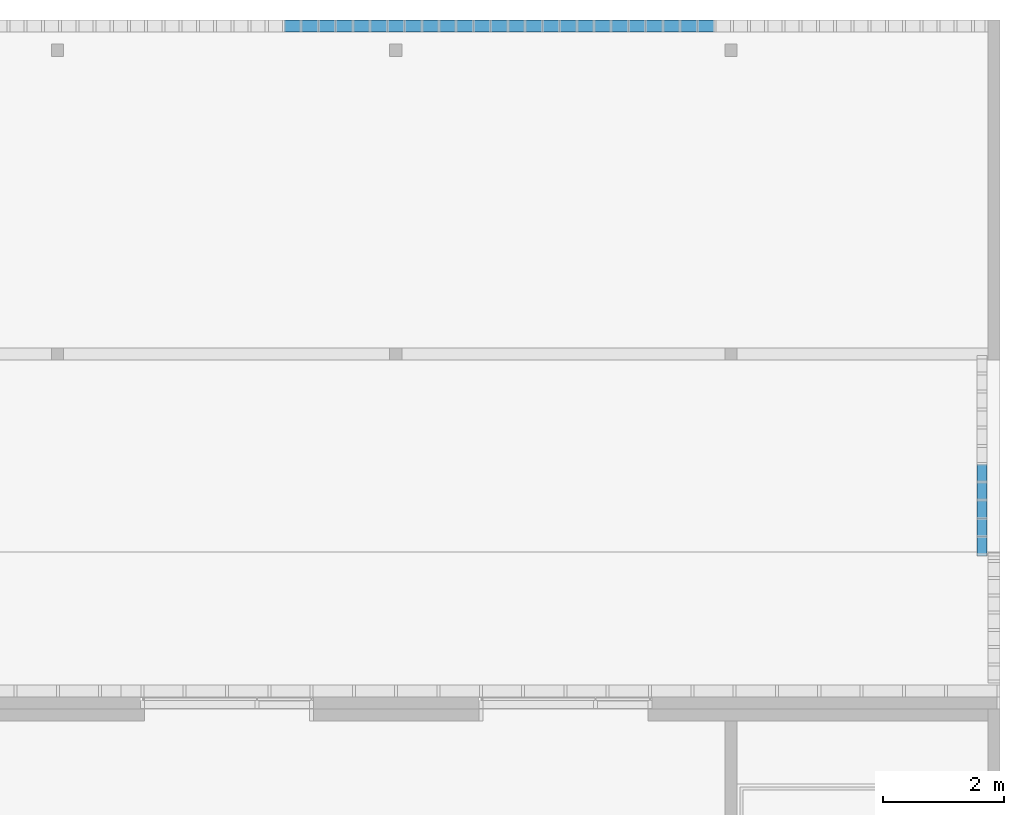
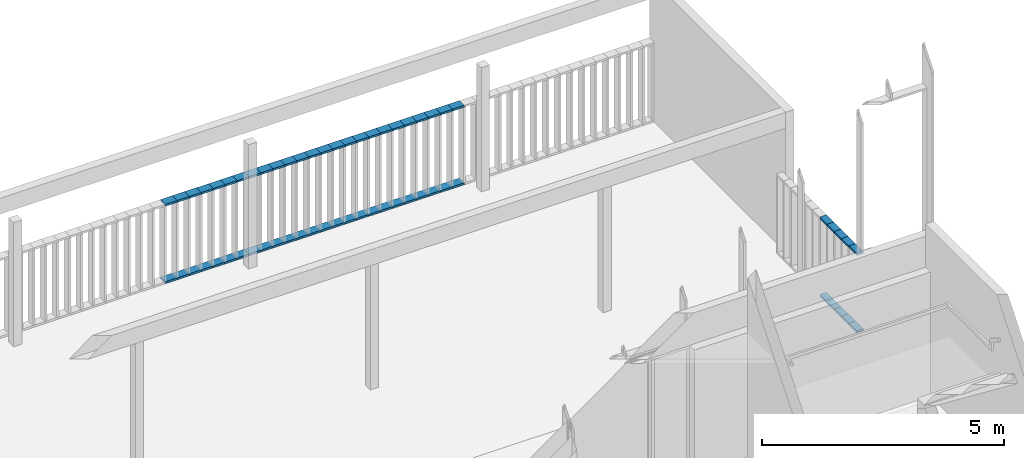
# One storey, part 56 of 240: 60 members, 2 elements without a shape of their own.
"""IFC2X3 building model written with IfcOpenShell, lengths in centimetres."""

import ifcopenshell
import ifcopenshell.guid

model = None  # the IFC model being written
_history = None  # IfcOwnerHistory: only IFC2X3 demands one
_inside = {}  # id of a spatial element -> (the spatial element, [elements in it])
_under = {}  # id of a project, library or spatial element -> (it, [spatial elements below it])
_declared = {}  # id of a project -> (the project, [libraries it declares])
_typed = {}  # id of a type object -> (the type object, [elements of that type])
_made_of = {}  # id of a material, layer set ... -> (it, [elements and type objects made of it])


def new_model(schema):
    """Start an empty IFC model of exactly this schema.

    Asked for "IFC4X3", IfcOpenShell would pick the latest addendum, in which some entities
    have other attributes; the version numbers below select the first issue.
    IFC2X3 requires an IfcOwnerHistory on every rooted entity: one is made here for all.
    """
    global model, _history
    if schema == "IFC4X3":
        model = ifcopenshell.file(schema_version=(4, 3, 0, 0))
    else:
        model = ifcopenshell.file(schema=schema)
    _inside.clear()
    _under.clear()
    _declared.clear()
    _typed.clear()
    _made_of.clear()
    _history = None
    if model.schema == "IFC2X3":
        org = make("IfcOrganization", Name="unknown")
        user = make(
            "IfcPersonAndOrganization",
            ThePerson=make("IfcPerson", FamilyName="unknown"),
            TheOrganization=org,
        )
        app = make(
            "IfcApplication",
            ApplicationDeveloper=org,
            Version="unknown",
            ApplicationFullName="unknown",
            ApplicationIdentifier="unknown",
        )
        _history = make(
            "IfcOwnerHistory",
            OwningUser=user,
            OwningApplication=app,
            ChangeAction="ADDED",
            CreationDate=0,
        )
    return model


def make(cls, **values):
    """One entity of the class cls with the attributes given. An attribute that is None is left unset."""
    return model.create_entity(
        cls, **{name: value for name, value in values.items() if value is not None}
    )


def entity(cls, *values):
    """Any entity or typed value of the class cls, its attributes in the order of the schema. None: left unset."""
    e = model.create_entity(cls)
    for i, value in enumerate(values):
        if value is not None:
            e[i] = value
    return e


def rooted(cls, **values):
    """An entity with a GlobalId (a new one), such as an element, a storey or a relation."""
    return make(cls, GlobalId=ifcopenshell.guid.new(), OwnerHistory=_history, **values)


def si_unit(unit_type, name, prefix=None):
    """IfcSIUnit, for example si_unit("LENGTHUNIT", "METRE", prefix="MILLI")."""
    return make("IfcSIUnit", UnitType=unit_type, Prefix=prefix, Name=name)


def converted_unit(unit_type, name, factor, base, dimensions=None, offset=None):
    """IfcConversionBasedUnit, such as the inch: factor (a typed value) times the base unit."""
    return make(
        "IfcConversionBasedUnit"
        if offset is None
        else "IfcConversionBasedUnitWithOffset",
        ConversionOffset=offset,
        Dimensions=None
        if dimensions is None
        else entity("IfcDimensionalExponents", *dimensions),
        UnitType=unit_type,
        Name=name,
        ConversionFactor=make(
            "IfcMeasureWithUnit", ValueComponent=factor, UnitComponent=base
        ),
    )


def derived_unit(unit_type, elements):
    """IfcDerivedUnit: a product of units, each with its exponent."""
    return make(
        "IfcDerivedUnit",
        Elements=[
            make("IfcDerivedUnitElement", Unit=unit, Exponent=power)
            for unit, power in elements
        ],
        UnitType=unit_type,
    )


def assignment(units):
    """IfcUnitAssignment: the units of a project."""
    return None if units is None else make("IfcUnitAssignment", Units=units)


def point(xyz):
    """IfcCartesianPoint."""
    return None if xyz is None else make("IfcCartesianPoint", Coordinates=xyz)


def direction(xyz):
    """IfcDirection."""
    return None if xyz is None else make("IfcDirection", DirectionRatios=xyz)


def frame(location, z_axis=None, x_axis=None):
    """IfcAxis2Placement3D, a coordinate frame: its origin and axes. An axis left out is left unset."""
    return make(
        "IfcAxis2Placement3D",
        Location=point(location),
        Axis=direction(z_axis),
        RefDirection=direction(x_axis),
    )


def frame_2d(location, x_axis=None):
    """IfcAxis2Placement2D, a coordinate frame in the plane: its origin and x axis."""
    return make(
        "IfcAxis2Placement2D", Location=point(location), RefDirection=direction(x_axis)
    )


def origin():
    """The frame at (0, 0, 0) with its axes left unset."""
    return frame((0.0, 0.0, 0.0))


def origin_2d_with_axis():
    """The frame at (0, 0) in the plane with the x axis (1, 0) written out."""
    return frame_2d((0.0, 0.0), x_axis=(1.0, 0.0))


def place(relative_to, where):
    """IfcLocalPlacement: puts the frame where relative to a parent placement (None: the world)."""
    return make(
        "IfcLocalPlacement", PlacementRelTo=relative_to, RelativePlacement=where
    )


def context(
    kind, dimensions, precision=None, world=None, true_north=None, identifier=None
):
    """IfcGeometricRepresentationContext, for example the 3D "Model" context."""
    return make(
        "IfcGeometricRepresentationContext",
        ContextIdentifier=identifier,
        ContextType=kind,
        CoordinateSpaceDimension=dimensions,
        Precision=precision,
        WorldCoordinateSystem=world,
        TrueNorth=true_north,
    )


def subcontext(parent, identifier, kind, view, scale=None):
    """IfcGeometricRepresentationSubContext, for example "Body" below "Model"."""
    return make(
        "IfcGeometricRepresentationSubContext",
        ContextIdentifier=identifier,
        ContextType=kind,
        ParentContext=parent,
        TargetScale=scale,
        TargetView=view,
    )


def project(units=None, contexts=None):
    """IfcProject with its units and contexts."""
    return rooted(
        "IfcProject",
        Name="project",
        RepresentationContexts=contexts,
        UnitsInContext=assignment(units),
    )


def spatial(cls, under=None, at=None, **own):
    """A site, building, storey or space (cls), placed at a placement, below another one or the project."""
    s = rooted(cls, ObjectPlacement=at, **own)
    if under is not None:
        _under.setdefault(under.id(), (under, []))[1].append(s)
    return s


def profile(cls, at=None, kind="AREA", **sizes):
    """A parametric profile (cls). Its sizes go by their IFC names, for example OverallWidth=200.0."""
    return make(cls, ProfileType=kind, Position=at, **sizes)


def rectangle(**sizes):
    """IfcRectangleProfileDef."""
    return profile("IfcRectangleProfileDef", **sizes)


def extrude(swept, where, along, depth):
    """IfcExtrudedAreaSolid: the profile swept, set in the frame where, extruded along a direction by depth."""
    return make(
        "IfcExtrudedAreaSolid",
        SweptArea=swept,
        Position=where,
        ExtrudedDirection=direction(along),
        Depth=depth,
    )


def shape(context_of_items, identifier, shape_type, items):
    """IfcShapeRepresentation: the items that make up one representation, for example the "Body"."""
    return make(
        "IfcShapeRepresentation",
        ContextOfItems=context_of_items,
        RepresentationIdentifier=identifier,
        RepresentationType=shape_type,
        Items=items,
    )


def source(mapping_origin, context_of_items, identifier, shape_type, items):
    """IfcRepresentationMap: a shape defined once, which mapped items show again and again."""
    return make(
        "IfcRepresentationMap",
        MappingOrigin=mapping_origin,
        MappedRepresentation=shape(context_of_items, identifier, shape_type, items),
    )


def transform(
    local_origin,
    x_axis=None,
    y_axis=None,
    z_axis=None,
    scale=None,
    scale2=None,
    scale3=None,
    uniform=True,
):
    """IfcCartesianTransformationOperator3D, or its non-uniform kind. x_axis, y_axis, z_axis: its Axis1, 2, 3."""
    if uniform:
        return make(
            "IfcCartesianTransformationOperator3D",
            Axis1=direction(x_axis),
            Axis2=direction(y_axis),
            LocalOrigin=point(local_origin),
            Scale=scale,
            Axis3=direction(z_axis),
        )
    return make(
        "IfcCartesianTransformationOperator3DnonUniform",
        Axis1=direction(x_axis),
        Axis2=direction(y_axis),
        LocalOrigin=point(local_origin),
        Scale=scale,
        Axis3=direction(z_axis),
        Scale2=scale2,
        Scale3=scale3,
    )


def mapped(mapping_source, mapping_target):
    """IfcMappedItem: shows the shape of a source again, moved by a transform."""
    return make(
        "IfcMappedItem", MappingSource=mapping_source, MappingTarget=mapping_target
    )


def material(Name=None, Category=None):
    """IfcMaterial."""
    return make("IfcMaterial", Name=Name, Category=Category)


def made_of(thing, what):
    """Note that an element or type object is made of a material, layer set ...; save() writes the relation."""
    if what is not None:
        _made_of.setdefault(what.id(), (what, []))[1].append(thing)
    return thing


def type_object(cls, material=None, **own):
    """A type object (cls), such as IfcWallType, which elements share."""
    return made_of(rooted(cls, **own), material)


def type_shapes(of_type, sources):
    """Give a type object the sources (RepresentationMaps) that its elements show as mapped items."""
    of_type.RepresentationMaps = sources


def element(
    cls,
    number,
    at=None,
    inside=None,
    cuts=None,
    type_object=None,
    material=None,
    context=None,
    identifier="Body",
    shape_type=None,
    held_by="IfcProductDefinitionShape",
    body=None,
    shapes=None,
    **own,
):
    """One element of the class cls, such as IfcWall. Its Tag is "e" and its number.

    at: its placement. inside: the storey or other place that contains it. cuts: it is an
    opening in that element (IfcRelVoidsElement). A single representation is given by context,
    identifier, shape_type and body (its items); several are given by shapes. held_by: the class
    of the entity that holds the representations. save() writes the other relations.
    """
    e = rooted(cls, Tag="e%d" % number, ObjectPlacement=at, **own)
    if body is not None:
        shapes = [shape(context, identifier, shape_type, body)]
    if shapes is not None:
        e.Representation = make(held_by, Representations=shapes)
    if inside is not None:
        _inside.setdefault(inside.id(), (inside, []))[1].append(e)
    if cuts is not None:
        rooted(
            "IfcRelVoidsElement", RelatingBuildingElement=cuts, RelatedOpeningElement=e
        )
    if type_object is not None:
        _typed.setdefault(type_object.id(), (type_object, []))[1].append(e)
    return made_of(e, material)


def aggregate(whole, parts):
    """IfcRelAggregates: a whole, such as a stair, and the parts it consists of."""
    return rooted("IfcRelAggregates", RelatingObject=whole, RelatedObjects=parts)


def save(model, path):
    """Write the relations noted so far, then the file.

    IfcRelAggregates (storeys below a building ...), IfcRelContainedInSpatialStructure (elements
    in a storey), IfcRelDefinesByType, IfcRelAssociatesMaterial and IfcRelDeclares: one each for
    every whole, place, type object, material and project.
    """
    for whole, parts in _under.values():
        aggregate(whole, parts)
    for where, things in _inside.values():
        rooted(
            "IfcRelContainedInSpatialStructure",
            RelatedElements=things,
            RelatingStructure=where,
        )
    for kind, things in _typed.values():
        rooted("IfcRelDefinesByType", RelatedObjects=things, RelatingType=kind)
    for what, things in _made_of.values():
        rooted("IfcRelAssociatesMaterial", RelatedObjects=things, RelatingMaterial=what)
    for by, libraries in _declared.values():
        rooted("IfcRelDeclares", RelatingContext=by, RelatedDefinitions=libraries)
    model.write(path)


model = new_model("IFC2X3")

# Units and contexts
model_context = context("Model", 3, precision=0.001, world=origin(), true_north=direction((6.12303176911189e-17, 1.0)))
body_context = subcontext(model_context, "Body", "Model", "MODEL_VIEW")
ifc_project = project(units=[si_unit("LENGTHUNIT", "METRE", prefix="CENTI"), si_unit("AREAUNIT", "SQUARE_METRE"), si_unit("VOLUMEUNIT", "CUBIC_METRE"), converted_unit("PLANEANGLEUNIT", "DEGREE", entity("IfcRatioMeasure", 0.0174532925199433), si_unit("PLANEANGLEUNIT", "RADIAN"), dimensions=[0, 0, 0, 0, 0, 0, 0]), si_unit("MASSUNIT", "GRAM", prefix="KILO"), derived_unit("MASSDENSITYUNIT", [(si_unit("MASSUNIT", "GRAM", prefix="KILO"), 1), (si_unit("LENGTHUNIT", "METRE"), -3)]), si_unit("TIMEUNIT", "SECOND"), si_unit("FREQUENCYUNIT", "HERTZ"), si_unit("THERMODYNAMICTEMPERATUREUNIT", "DEGREE_CELSIUS"), derived_unit("THERMALTRANSMITTANCEUNIT", [(si_unit("MASSUNIT", "GRAM", prefix="KILO"), 1), (si_unit("THERMODYNAMICTEMPERATUREUNIT", "KELVIN"), -1), (si_unit("TIMEUNIT", "SECOND"), -3)]), derived_unit("VOLUMETRICFLOWRATEUNIT", [(si_unit("LENGTHUNIT", "METRE"), 3), (si_unit("TIMEUNIT", "SECOND"), -1)]), si_unit("ELECTRICCURRENTUNIT", "AMPERE"), si_unit("ELECTRICVOLTAGEUNIT", "VOLT"), si_unit("POWERUNIT", "WATT"), si_unit("FORCEUNIT", "NEWTON", prefix="KILO"), si_unit("ILLUMINANCEUNIT", "LUX"), si_unit("LUMINOUSFLUXUNIT", "LUMEN"), si_unit("LUMINOUSINTENSITYUNIT", "CANDELA"), derived_unit("USERDEFINED", [(si_unit("MASSUNIT", "GRAM", prefix="KILO"), -1), (si_unit("LENGTHUNIT", "METRE"), -2), (si_unit("TIMEUNIT", "SECOND"), 3), (si_unit("LUMINOUSFLUXUNIT", "LUMEN"), 1)]), derived_unit("LINEARVELOCITYUNIT", [(si_unit("LENGTHUNIT", "METRE"), 1), (si_unit("TIMEUNIT", "SECOND"), -1)]), si_unit("PRESSUREUNIT", "PASCAL"), derived_unit("USERDEFINED", [(si_unit("LENGTHUNIT", "METRE"), -2), (si_unit("MASSUNIT", "GRAM", prefix="KILO"), 1), (si_unit("TIMEUNIT", "SECOND"), -2)])], contexts=[model_context])

# Site, building, storey
site_placement = place(None, frame((-2781.94577612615, 7442.24238424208, 0.0)))
site = spatial("IfcSite", under=ifc_project, at=site_placement, Name="Default", CompositionType="ELEMENT")
building_placement = place(site_placement, origin())
building = spatial("IfcBuilding", under=site, at=building_placement, CompositionType="ELEMENT")
storey_placement = place(building_placement, origin())
storey = spatial("IfcBuildingStorey", under=building, at=storey_placement, Name="N00 - COO", CompositionType="ELEMENT", Elevation=0.0)

# Curtain wall, members
curtain_wall_type_1 = type_object("IfcCurtainWallType", Name="Mur-rideau:SR-Clôture", PredefinedType="NOTDEFINED")
curtain_wall_1_placement = place(building_placement, origin())
curtain_wall_1 = element("IfcCurtainWall", 1, at=curtain_wall_1_placement, inside=storey, type_object=curtain_wall_type_1, Name="Mur-rideau:SR-Clôture", ObjectType="Mur-rideau:SR-Clôture")
ifc_material = material(Name="Aluminium")
member_type_1 = type_object("IfcMemberType", Name="Epine nord (200x50 mm)", PredefinedType="MEMBER")
shared_shape_1 = source(origin(), body_context, "Body", "SweptSolid", [
    extrude(rectangle(XDim=20.0, YDim=5.0, at=origin_2d_with_axis()), frame((-2.5, 0.0, -28.5000000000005), z_axis=(0.0, 0.0, 1.0), x_axis=(0.0, -1.0, 0.0)), (0.0, 0.0, 1.0), 28.5000000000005),
])
type_shapes(member_type_1, [shared_shape_1])
member_1_placement = place(building_placement, frame((-1546.49987965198, 40.0, 200.0), z_axis=(1.0, 0.0, 0.0), x_axis=(0.0, 0.0, 1.0)))
member_1 = element("IfcMember", 2, at=member_1_placement, type_object=member_type_1, material=ifc_material, Name="Meneau rectangulaire:Epine nord (200x50 mm)", ObjectType="Meneau rectangulaire:Epine nord (200x50 mm)", context=body_context, shape_type="MappedRepresentation", body=[
    mapped(shared_shape_1, transform((0.0, 0.0, 0.0), scale=1.0)),
])
member_2_placement = place(building_placement, frame((-1517.99987965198, 40.0, 200.0), z_axis=(1.0, 0.0, 0.0), x_axis=(0.0, 0.0, 1.0)))
member_2 = element("IfcMember", 3, at=member_2_placement, type_object=member_type_1, material=ifc_material, Name="Meneau rectangulaire:Epine nord (200x50 mm)", ObjectType="Meneau rectangulaire:Epine nord (200x50 mm)", context=body_context, shape_type="MappedRepresentation", body=[
    mapped(shared_shape_1, transform((0.0, 0.0, 0.0), scale=1.0)),
])
member_3_placement = place(building_placement, frame((-1489.49987965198, 40.0, 200.0), z_axis=(1.0, 0.0, 0.0), x_axis=(0.0, 0.0, 1.0)))
member_3 = element("IfcMember", 4, at=member_3_placement, type_object=member_type_1, material=ifc_material, Name="Meneau rectangulaire:Epine nord (200x50 mm)", ObjectType="Meneau rectangulaire:Epine nord (200x50 mm)", context=body_context, shape_type="MappedRepresentation", body=[
    mapped(shared_shape_1, transform((0.0, 0.0, 0.0), scale=1.0)),
])
member_4_placement = place(building_placement, frame((-1460.99987965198, 40.0, 200.0), z_axis=(1.0, 0.0, 0.0), x_axis=(0.0, 0.0, 1.0)))
member_4 = element("IfcMember", 5, at=member_4_placement, type_object=member_type_1, material=ifc_material, Name="Meneau rectangulaire:Epine nord (200x50 mm)", ObjectType="Meneau rectangulaire:Epine nord (200x50 mm)", context=body_context, shape_type="MappedRepresentation", body=[
    mapped(shared_shape_1, transform((0.0, 0.0, 0.0), scale=1.0)),
])
member_5_placement = place(building_placement, frame((-1432.49987965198, 40.0, 200.0), z_axis=(1.0, 0.0, 0.0), x_axis=(0.0, 0.0, 1.0)))
member_5 = element("IfcMember", 6, at=member_5_placement, type_object=member_type_1, material=ifc_material, Name="Meneau rectangulaire:Epine nord (200x50 mm)", ObjectType="Meneau rectangulaire:Epine nord (200x50 mm)", context=body_context, shape_type="MappedRepresentation", body=[
    mapped(shared_shape_1, transform((0.0, 0.0, 0.0), scale=1.0)),
])
member_6_placement = place(building_placement, frame((-1403.99987965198, 40.0, 200.0), z_axis=(1.0, 0.0, 0.0), x_axis=(0.0, 0.0, 1.0)))
member_6 = element("IfcMember", 7, at=member_6_placement, type_object=member_type_1, material=ifc_material, Name="Meneau rectangulaire:Epine nord (200x50 mm)", ObjectType="Meneau rectangulaire:Epine nord (200x50 mm)", context=body_context, shape_type="MappedRepresentation", body=[
    mapped(shared_shape_1, transform((0.0, 0.0, 0.0), scale=1.0)),
])
member_7_placement = place(building_placement, frame((-1375.49987965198, 40.0, 200.0), z_axis=(1.0, 0.0, 0.0), x_axis=(0.0, 0.0, 1.0)))
member_7 = element("IfcMember", 8, at=member_7_placement, type_object=member_type_1, material=ifc_material, Name="Meneau rectangulaire:Epine nord (200x50 mm)", ObjectType="Meneau rectangulaire:Epine nord (200x50 mm)", context=body_context, shape_type="MappedRepresentation", body=[
    mapped(shared_shape_1, transform((0.0, 0.0, 0.0), scale=1.0)),
])
member_8_placement = place(building_placement, frame((-1346.99987965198, 40.0, 200.0), z_axis=(1.0, 0.0, 0.0), x_axis=(0.0, 0.0, 1.0)))
member_8 = element("IfcMember", 9, at=member_8_placement, type_object=member_type_1, material=ifc_material, Name="Meneau rectangulaire:Epine nord (200x50 mm)", ObjectType="Meneau rectangulaire:Epine nord (200x50 mm)", context=body_context, shape_type="MappedRepresentation", body=[
    mapped(shared_shape_1, transform((0.0, 0.0, 0.0), scale=1.0)),
])
member_9_placement = place(building_placement, frame((-1318.49987965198, 40.0, 200.0), z_axis=(1.0, 0.0, 0.0), x_axis=(0.0, 0.0, 1.0)))
member_9 = element("IfcMember", 10, at=member_9_placement, type_object=member_type_1, material=ifc_material, Name="Meneau rectangulaire:Epine nord (200x50 mm)", ObjectType="Meneau rectangulaire:Epine nord (200x50 mm)", context=body_context, shape_type="MappedRepresentation", body=[
    mapped(shared_shape_1, transform((0.0, 0.0, 0.0), scale=1.0)),
])
member_10_placement = place(building_placement, frame((-1289.99987965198, 40.0, 200.0), z_axis=(1.0, 0.0, 0.0), x_axis=(0.0, 0.0, 1.0)))
member_10 = element("IfcMember", 11, at=member_10_placement, type_object=member_type_1, material=ifc_material, Name="Meneau rectangulaire:Epine nord (200x50 mm)", ObjectType="Meneau rectangulaire:Epine nord (200x50 mm)", context=body_context, shape_type="MappedRepresentation", body=[
    mapped(shared_shape_1, transform((0.0, 0.0, 0.0), scale=1.0)),
])
member_11_placement = place(building_placement, frame((-1261.49987965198, 40.0, 200.0), z_axis=(1.0, 0.0, 0.0), x_axis=(0.0, 0.0, 1.0)))
member_11 = element("IfcMember", 12, at=member_11_placement, type_object=member_type_1, material=ifc_material, Name="Meneau rectangulaire:Epine nord (200x50 mm)", ObjectType="Meneau rectangulaire:Epine nord (200x50 mm)", context=body_context, shape_type="MappedRepresentation", body=[
    mapped(shared_shape_1, transform((0.0, 0.0, 0.0), scale=1.0)),
])
member_12_placement = place(building_placement, frame((-1232.99987965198, 40.0, 200.0), z_axis=(1.0, 0.0, 0.0), x_axis=(0.0, 0.0, 1.0)))
member_12 = element("IfcMember", 13, at=member_12_placement, type_object=member_type_1, material=ifc_material, Name="Meneau rectangulaire:Epine nord (200x50 mm)", ObjectType="Meneau rectangulaire:Epine nord (200x50 mm)", context=body_context, shape_type="MappedRepresentation", body=[
    mapped(shared_shape_1, transform((0.0, 0.0, 0.0), scale=1.0)),
])
member_13_placement = place(building_placement, frame((-1204.49987965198, 40.0, 200.0), z_axis=(1.0, 0.0, 0.0), x_axis=(0.0, 0.0, 1.0)))
member_13 = element("IfcMember", 14, at=member_13_placement, type_object=member_type_1, material=ifc_material, Name="Meneau rectangulaire:Epine nord (200x50 mm)", ObjectType="Meneau rectangulaire:Epine nord (200x50 mm)", context=body_context, shape_type="MappedRepresentation", body=[
    mapped(shared_shape_1, transform((0.0, 0.0, 0.0), scale=1.0)),
])
member_14_placement = place(building_placement, frame((-1175.99987965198, 40.0, 200.0), z_axis=(1.0, 0.0, 0.0), x_axis=(0.0, 0.0, 1.0)))
member_14 = element("IfcMember", 15, at=member_14_placement, type_object=member_type_1, material=ifc_material, Name="Meneau rectangulaire:Epine nord (200x50 mm)", ObjectType="Meneau rectangulaire:Epine nord (200x50 mm)", context=body_context, shape_type="MappedRepresentation", body=[
    mapped(shared_shape_1, transform((0.0, 0.0, 0.0), scale=1.0)),
])
member_15_placement = place(building_placement, frame((-1147.49987965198, 40.0, 200.0), z_axis=(1.0, 0.0, 0.0), x_axis=(0.0, 0.0, 1.0)))
member_15 = element("IfcMember", 16, at=member_15_placement, type_object=member_type_1, material=ifc_material, Name="Meneau rectangulaire:Epine nord (200x50 mm)", ObjectType="Meneau rectangulaire:Epine nord (200x50 mm)", context=body_context, shape_type="MappedRepresentation", body=[
    mapped(shared_shape_1, transform((0.0, 0.0, 0.0), scale=1.0)),
])
member_16_placement = place(building_placement, frame((-1118.99987965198, 40.0, 200.0), z_axis=(1.0, 0.0, 0.0), x_axis=(0.0, 0.0, 1.0)))
member_16 = element("IfcMember", 17, at=member_16_placement, type_object=member_type_1, material=ifc_material, Name="Meneau rectangulaire:Epine nord (200x50 mm)", ObjectType="Meneau rectangulaire:Epine nord (200x50 mm)", context=body_context, shape_type="MappedRepresentation", body=[
    mapped(shared_shape_1, transform((0.0, 0.0, 0.0), scale=1.0)),
])
member_17_placement = place(building_placement, frame((-1090.49987965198, 40.0, 200.0), z_axis=(1.0, 0.0, 0.0), x_axis=(0.0, 0.0, 1.0)))
member_17 = element("IfcMember", 18, at=member_17_placement, type_object=member_type_1, material=ifc_material, Name="Meneau rectangulaire:Epine nord (200x50 mm)", ObjectType="Meneau rectangulaire:Epine nord (200x50 mm)", context=body_context, shape_type="MappedRepresentation", body=[
    mapped(shared_shape_1, transform((0.0, 0.0, 0.0), scale=1.0)),
])
member_18_placement = place(building_placement, frame((-1061.99987965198, 40.0, 200.0), z_axis=(1.0, 0.0, 0.0), x_axis=(0.0, 0.0, 1.0)))
member_18 = element("IfcMember", 19, at=member_18_placement, type_object=member_type_1, material=ifc_material, Name="Meneau rectangulaire:Epine nord (200x50 mm)", ObjectType="Meneau rectangulaire:Epine nord (200x50 mm)", context=body_context, shape_type="MappedRepresentation", body=[
    mapped(shared_shape_1, transform((0.0, 0.0, 0.0), scale=1.0)),
])
member_19_placement = place(building_placement, frame((-1033.49987965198, 40.0, 200.0), z_axis=(1.0, 0.0, 0.0), x_axis=(0.0, 0.0, 1.0)))
member_19 = element("IfcMember", 20, at=member_19_placement, type_object=member_type_1, material=ifc_material, Name="Meneau rectangulaire:Epine nord (200x50 mm)", ObjectType="Meneau rectangulaire:Epine nord (200x50 mm)", context=body_context, shape_type="MappedRepresentation", body=[
    mapped(shared_shape_1, transform((0.0, 0.0, 0.0), scale=1.0)),
])
member_20_placement = place(building_placement, frame((-1004.99987965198, 40.0, 200.0), z_axis=(1.0, 0.0, 0.0), x_axis=(0.0, 0.0, 1.0)))
member_20 = element("IfcMember", 21, at=member_20_placement, type_object=member_type_1, material=ifc_material, Name="Meneau rectangulaire:Epine nord (200x50 mm)", ObjectType="Meneau rectangulaire:Epine nord (200x50 mm)", context=body_context, shape_type="MappedRepresentation", body=[
    mapped(shared_shape_1, transform((0.0, 0.0, 0.0), scale=1.0)),
])
member_21_placement = place(building_placement, frame((-976.499879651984, 40.0, 200.0), z_axis=(1.0, 0.0, 0.0), x_axis=(0.0, 0.0, 1.0)))
member_21 = element("IfcMember", 22, at=member_21_placement, type_object=member_type_1, material=ifc_material, Name="Meneau rectangulaire:Epine nord (200x50 mm)", ObjectType="Meneau rectangulaire:Epine nord (200x50 mm)", context=body_context, shape_type="MappedRepresentation", body=[
    mapped(shared_shape_1, transform((0.0, 0.0, 0.0), scale=1.0)),
])
member_22_placement = place(building_placement, frame((-947.999879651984, 40.0, 200.0), z_axis=(1.0, 0.0, 0.0), x_axis=(0.0, 0.0, 1.0)))
member_22 = element("IfcMember", 23, at=member_22_placement, type_object=member_type_1, material=ifc_material, Name="Meneau rectangulaire:Epine nord (200x50 mm)", ObjectType="Meneau rectangulaire:Epine nord (200x50 mm)", context=body_context, shape_type="MappedRepresentation", body=[
    mapped(shared_shape_1, transform((0.0, 0.0, 0.0), scale=1.0)),
])
member_23_placement = place(building_placement, frame((-919.499879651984, 40.0, 200.0), z_axis=(1.0, 0.0, 0.0), x_axis=(0.0, 0.0, 1.0)))
member_23 = element("IfcMember", 24, at=member_23_placement, type_object=member_type_1, material=ifc_material, Name="Meneau rectangulaire:Epine nord (200x50 mm)", ObjectType="Meneau rectangulaire:Epine nord (200x50 mm)", context=body_context, shape_type="MappedRepresentation", body=[
    mapped(shared_shape_1, transform((0.0, 0.0, 0.0), scale=1.0)),
])
member_24_placement = place(building_placement, frame((-890.999879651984, 40.0, 200.0), z_axis=(1.0, 0.0, 0.0), x_axis=(0.0, 0.0, 1.0)))
member_24 = element("IfcMember", 25, at=member_24_placement, type_object=member_type_1, material=ifc_material, Name="Meneau rectangulaire:Epine nord (200x50 mm)", ObjectType="Meneau rectangulaire:Epine nord (200x50 mm)", context=body_context, shape_type="MappedRepresentation", body=[
    mapped(shared_shape_1, transform((0.0, 0.0, 0.0), scale=1.0)),
])
member_25_placement = place(building_placement, frame((-862.499879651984, 40.0, 200.0), z_axis=(1.0, 0.0, 0.0), x_axis=(0.0, 0.0, 1.0)))
member_25 = element("IfcMember", 26, at=member_25_placement, type_object=member_type_1, material=ifc_material, Name="Meneau rectangulaire:Epine nord (200x50 mm)", ObjectType="Meneau rectangulaire:Epine nord (200x50 mm)", context=body_context, shape_type="MappedRepresentation", body=[
    mapped(shared_shape_1, transform((0.0, 0.0, 0.0), scale=1.0)),
])
member_type_2 = type_object("IfcMemberType", Name="Epine nord (200x50 mm)", PredefinedType="MEMBER")
shared_shape_2 = source(origin(), body_context, "Body", "SweptSolid", [
    extrude(rectangle(XDim=20.0, YDim=5.0, at=origin_2d_with_axis()), frame((-2.5, 0.0, -28.5000000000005), z_axis=(0.0, 0.0, 1.0), x_axis=(0.0, -1.0, 0.0)), (0.0, 0.0, 1.0), 28.5000000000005),
])
type_shapes(member_type_2, [shared_shape_2])
member_26_placement = place(building_placement, frame((-1574.99987965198, 40.0, 0.0), z_axis=(-1.0, 0.0, 0.0), x_axis=(0.0, 0.0, -1.0)))
member_26 = element("IfcMember", 27, at=member_26_placement, type_object=member_type_2, material=ifc_material, Name="Meneau rectangulaire:Epine nord (200x50 mm)", ObjectType="Meneau rectangulaire:Epine nord (200x50 mm)", context=body_context, shape_type="MappedRepresentation", body=[
    mapped(shared_shape_2, transform((0.0, 0.0, 0.0), scale=1.0)),
])
member_27_placement = place(building_placement, frame((-1546.49987965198, 40.0, 0.0), z_axis=(-1.0, 0.0, 0.0), x_axis=(0.0, 0.0, -1.0)))
member_27 = element("IfcMember", 28, at=member_27_placement, type_object=member_type_2, material=ifc_material, Name="Meneau rectangulaire:Epine nord (200x50 mm)", ObjectType="Meneau rectangulaire:Epine nord (200x50 mm)", context=body_context, shape_type="MappedRepresentation", body=[
    mapped(shared_shape_2, transform((0.0, 0.0, 0.0), scale=1.0)),
])
member_28_placement = place(building_placement, frame((-1517.99987965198, 40.0, 0.0), z_axis=(-1.0, 0.0, 0.0), x_axis=(0.0, 0.0, -1.0)))
member_28 = element("IfcMember", 29, at=member_28_placement, type_object=member_type_2, material=ifc_material, Name="Meneau rectangulaire:Epine nord (200x50 mm)", ObjectType="Meneau rectangulaire:Epine nord (200x50 mm)", context=body_context, shape_type="MappedRepresentation", body=[
    mapped(shared_shape_2, transform((0.0, 0.0, 0.0), scale=1.0)),
])
member_29_placement = place(building_placement, frame((-1489.49987965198, 40.0, 0.0), z_axis=(-1.0, 0.0, 0.0), x_axis=(0.0, 0.0, -1.0)))
member_29 = element("IfcMember", 30, at=member_29_placement, type_object=member_type_2, material=ifc_material, Name="Meneau rectangulaire:Epine nord (200x50 mm)", ObjectType="Meneau rectangulaire:Epine nord (200x50 mm)", context=body_context, shape_type="MappedRepresentation", body=[
    mapped(shared_shape_2, transform((0.0, 0.0, 0.0), scale=1.0)),
])
member_30_placement = place(building_placement, frame((-1460.99987965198, 40.0, 0.0), z_axis=(-1.0, 0.0, 0.0), x_axis=(0.0, 0.0, -1.0)))
member_30 = element("IfcMember", 31, at=member_30_placement, type_object=member_type_2, material=ifc_material, Name="Meneau rectangulaire:Epine nord (200x50 mm)", ObjectType="Meneau rectangulaire:Epine nord (200x50 mm)", context=body_context, shape_type="MappedRepresentation", body=[
    mapped(shared_shape_2, transform((0.0, 0.0, 0.0), scale=1.0)),
])
member_31_placement = place(building_placement, frame((-1432.49987965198, 40.0, 0.0), z_axis=(-1.0, 0.0, 0.0), x_axis=(0.0, 0.0, -1.0)))
member_31 = element("IfcMember", 32, at=member_31_placement, type_object=member_type_2, material=ifc_material, Name="Meneau rectangulaire:Epine nord (200x50 mm)", ObjectType="Meneau rectangulaire:Epine nord (200x50 mm)", context=body_context, shape_type="MappedRepresentation", body=[
    mapped(shared_shape_2, transform((0.0, 0.0, 0.0), scale=1.0)),
])
member_32_placement = place(building_placement, frame((-1403.99987965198, 40.0, 0.0), z_axis=(-1.0, 0.0, 0.0), x_axis=(0.0, 0.0, -1.0)))
member_32 = element("IfcMember", 33, at=member_32_placement, type_object=member_type_2, material=ifc_material, Name="Meneau rectangulaire:Epine nord (200x50 mm)", ObjectType="Meneau rectangulaire:Epine nord (200x50 mm)", context=body_context, shape_type="MappedRepresentation", body=[
    mapped(shared_shape_2, transform((0.0, 0.0, 0.0), scale=1.0)),
])
member_33_placement = place(building_placement, frame((-1375.49987965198, 40.0, 0.0), z_axis=(-1.0, 0.0, 0.0), x_axis=(0.0, 0.0, -1.0)))
member_33 = element("IfcMember", 34, at=member_33_placement, type_object=member_type_2, material=ifc_material, Name="Meneau rectangulaire:Epine nord (200x50 mm)", ObjectType="Meneau rectangulaire:Epine nord (200x50 mm)", context=body_context, shape_type="MappedRepresentation", body=[
    mapped(shared_shape_2, transform((0.0, 0.0, 0.0), scale=1.0)),
])
member_34_placement = place(building_placement, frame((-1346.99987965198, 40.0, 0.0), z_axis=(-1.0, 0.0, 0.0), x_axis=(0.0, 0.0, -1.0)))
member_34 = element("IfcMember", 35, at=member_34_placement, type_object=member_type_2, material=ifc_material, Name="Meneau rectangulaire:Epine nord (200x50 mm)", ObjectType="Meneau rectangulaire:Epine nord (200x50 mm)", context=body_context, shape_type="MappedRepresentation", body=[
    mapped(shared_shape_2, transform((0.0, 0.0, 0.0), scale=1.0)),
])
member_35_placement = place(building_placement, frame((-1318.49987965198, 40.0, 0.0), z_axis=(-1.0, 0.0, 0.0), x_axis=(0.0, 0.0, -1.0)))
member_35 = element("IfcMember", 36, at=member_35_placement, type_object=member_type_2, material=ifc_material, Name="Meneau rectangulaire:Epine nord (200x50 mm)", ObjectType="Meneau rectangulaire:Epine nord (200x50 mm)", context=body_context, shape_type="MappedRepresentation", body=[
    mapped(shared_shape_2, transform((0.0, 0.0, 0.0), scale=1.0)),
])
member_36_placement = place(building_placement, frame((-1289.99987965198, 40.0, 0.0), z_axis=(-1.0, 0.0, 0.0), x_axis=(0.0, 0.0, -1.0)))
member_36 = element("IfcMember", 37, at=member_36_placement, type_object=member_type_2, material=ifc_material, Name="Meneau rectangulaire:Epine nord (200x50 mm)", ObjectType="Meneau rectangulaire:Epine nord (200x50 mm)", context=body_context, shape_type="MappedRepresentation", body=[
    mapped(shared_shape_2, transform((0.0, 0.0, 0.0), scale=1.0)),
])
member_37_placement = place(building_placement, frame((-1261.49987965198, 40.0, 0.0), z_axis=(-1.0, 0.0, 0.0), x_axis=(0.0, 0.0, -1.0)))
member_37 = element("IfcMember", 38, at=member_37_placement, type_object=member_type_2, material=ifc_material, Name="Meneau rectangulaire:Epine nord (200x50 mm)", ObjectType="Meneau rectangulaire:Epine nord (200x50 mm)", context=body_context, shape_type="MappedRepresentation", body=[
    mapped(shared_shape_2, transform((0.0, 0.0, 0.0), scale=1.0)),
])
member_38_placement = place(building_placement, frame((-1232.99987965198, 40.0, 0.0), z_axis=(-1.0, 0.0, 0.0), x_axis=(0.0, 0.0, -1.0)))
member_38 = element("IfcMember", 39, at=member_38_placement, type_object=member_type_2, material=ifc_material, Name="Meneau rectangulaire:Epine nord (200x50 mm)", ObjectType="Meneau rectangulaire:Epine nord (200x50 mm)", context=body_context, shape_type="MappedRepresentation", body=[
    mapped(shared_shape_2, transform((0.0, 0.0, 0.0), scale=1.0)),
])
member_39_placement = place(building_placement, frame((-1204.49987965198, 40.0, 0.0), z_axis=(-1.0, 0.0, 0.0), x_axis=(0.0, 0.0, -1.0)))
member_39 = element("IfcMember", 40, at=member_39_placement, type_object=member_type_2, material=ifc_material, Name="Meneau rectangulaire:Epine nord (200x50 mm)", ObjectType="Meneau rectangulaire:Epine nord (200x50 mm)", context=body_context, shape_type="MappedRepresentation", body=[
    mapped(shared_shape_2, transform((0.0, 0.0, 0.0), scale=1.0)),
])
member_40_placement = place(building_placement, frame((-1175.99987965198, 40.0, 0.0), z_axis=(-1.0, 0.0, 0.0), x_axis=(0.0, 0.0, -1.0)))
member_40 = element("IfcMember", 41, at=member_40_placement, type_object=member_type_2, material=ifc_material, Name="Meneau rectangulaire:Epine nord (200x50 mm)", ObjectType="Meneau rectangulaire:Epine nord (200x50 mm)", context=body_context, shape_type="MappedRepresentation", body=[
    mapped(shared_shape_2, transform((0.0, 0.0, 0.0), scale=1.0)),
])
member_41_placement = place(building_placement, frame((-1147.49987965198, 40.0, 0.0), z_axis=(-1.0, 0.0, 0.0), x_axis=(0.0, 0.0, -1.0)))
member_41 = element("IfcMember", 42, at=member_41_placement, type_object=member_type_2, material=ifc_material, Name="Meneau rectangulaire:Epine nord (200x50 mm)", ObjectType="Meneau rectangulaire:Epine nord (200x50 mm)", context=body_context, shape_type="MappedRepresentation", body=[
    mapped(shared_shape_2, transform((0.0, 0.0, 0.0), scale=1.0)),
])
member_42_placement = place(building_placement, frame((-1118.99987965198, 40.0, 0.0), z_axis=(-1.0, 0.0, 0.0), x_axis=(0.0, 0.0, -1.0)))
member_42 = element("IfcMember", 43, at=member_42_placement, type_object=member_type_2, material=ifc_material, Name="Meneau rectangulaire:Epine nord (200x50 mm)", ObjectType="Meneau rectangulaire:Epine nord (200x50 mm)", context=body_context, shape_type="MappedRepresentation", body=[
    mapped(shared_shape_2, transform((0.0, 0.0, 0.0), scale=1.0)),
])
member_43_placement = place(building_placement, frame((-1090.49987965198, 40.0, 0.0), z_axis=(-1.0, 0.0, 0.0), x_axis=(0.0, 0.0, -1.0)))
member_43 = element("IfcMember", 44, at=member_43_placement, type_object=member_type_2, material=ifc_material, Name="Meneau rectangulaire:Epine nord (200x50 mm)", ObjectType="Meneau rectangulaire:Epine nord (200x50 mm)", context=body_context, shape_type="MappedRepresentation", body=[
    mapped(shared_shape_2, transform((0.0, 0.0, 0.0), scale=1.0)),
])
member_44_placement = place(building_placement, frame((-1061.99987965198, 40.0, 0.0), z_axis=(-1.0, 0.0, 0.0), x_axis=(0.0, 0.0, -1.0)))
member_44 = element("IfcMember", 45, at=member_44_placement, type_object=member_type_2, material=ifc_material, Name="Meneau rectangulaire:Epine nord (200x50 mm)", ObjectType="Meneau rectangulaire:Epine nord (200x50 mm)", context=body_context, shape_type="MappedRepresentation", body=[
    mapped(shared_shape_2, transform((0.0, 0.0, 0.0), scale=1.0)),
])
member_45_placement = place(building_placement, frame((-1033.49987965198, 40.0, 0.0), z_axis=(-1.0, 0.0, 0.0), x_axis=(0.0, 0.0, -1.0)))
member_45 = element("IfcMember", 46, at=member_45_placement, type_object=member_type_2, material=ifc_material, Name="Meneau rectangulaire:Epine nord (200x50 mm)", ObjectType="Meneau rectangulaire:Epine nord (200x50 mm)", context=body_context, shape_type="MappedRepresentation", body=[
    mapped(shared_shape_2, transform((0.0, 0.0, 0.0), scale=1.0)),
])
member_46_placement = place(building_placement, frame((-1004.99987965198, 40.0, 0.0), z_axis=(-1.0, 0.0, 0.0), x_axis=(0.0, 0.0, -1.0)))
member_46 = element("IfcMember", 47, at=member_46_placement, type_object=member_type_2, material=ifc_material, Name="Meneau rectangulaire:Epine nord (200x50 mm)", ObjectType="Meneau rectangulaire:Epine nord (200x50 mm)", context=body_context, shape_type="MappedRepresentation", body=[
    mapped(shared_shape_2, transform((0.0, 0.0, 0.0), scale=1.0)),
])
member_47_placement = place(building_placement, frame((-976.499879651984, 40.0, 0.0), z_axis=(-1.0, 0.0, 0.0), x_axis=(0.0, 0.0, -1.0)))
member_47 = element("IfcMember", 48, at=member_47_placement, type_object=member_type_2, material=ifc_material, Name="Meneau rectangulaire:Epine nord (200x50 mm)", ObjectType="Meneau rectangulaire:Epine nord (200x50 mm)", context=body_context, shape_type="MappedRepresentation", body=[
    mapped(shared_shape_2, transform((0.0, 0.0, 0.0), scale=1.0)),
])
member_48_placement = place(building_placement, frame((-947.999879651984, 40.0, 0.0), z_axis=(-1.0, 0.0, 0.0), x_axis=(0.0, 0.0, -1.0)))
member_48 = element("IfcMember", 49, at=member_48_placement, type_object=member_type_2, material=ifc_material, Name="Meneau rectangulaire:Epine nord (200x50 mm)", ObjectType="Meneau rectangulaire:Epine nord (200x50 mm)", context=body_context, shape_type="MappedRepresentation", body=[
    mapped(shared_shape_2, transform((0.0, 0.0, 0.0), scale=1.0)),
])
member_49_placement = place(building_placement, frame((-919.499879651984, 40.0, 0.0), z_axis=(-1.0, 0.0, 0.0), x_axis=(0.0, 0.0, -1.0)))
member_49 = element("IfcMember", 50, at=member_49_placement, type_object=member_type_2, material=ifc_material, Name="Meneau rectangulaire:Epine nord (200x50 mm)", ObjectType="Meneau rectangulaire:Epine nord (200x50 mm)", context=body_context, shape_type="MappedRepresentation", body=[
    mapped(shared_shape_2, transform((0.0, 0.0, 0.0), scale=1.0)),
])
member_50_placement = place(building_placement, frame((-890.999879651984, 40.0, 0.0), z_axis=(-1.0, 0.0, 0.0), x_axis=(0.0, 0.0, -1.0)))
member_50 = element("IfcMember", 51, at=member_50_placement, type_object=member_type_2, material=ifc_material, Name="Meneau rectangulaire:Epine nord (200x50 mm)", ObjectType="Meneau rectangulaire:Epine nord (200x50 mm)", context=body_context, shape_type="MappedRepresentation", body=[
    mapped(shared_shape_2, transform((0.0, 0.0, 0.0), scale=1.0)),
])
aggregate(curtain_wall_1, [member_1, member_2, member_3, member_4, member_5, member_6, member_7, member_8, member_9, member_10, member_11, member_12, member_13, member_14, member_15, member_16, member_17, member_18, member_19, member_20, member_21, member_22, member_23, member_24, member_25, member_26, member_27, member_28, member_29, member_30, member_31, member_32, member_33, member_34, member_35, member_36, member_37, member_38, member_39, member_40, member_41, member_42, member_43, member_44, member_45, member_46, member_47, member_48, member_49, member_50])

curtain_wall_type_2 = type_object("IfcCurtainWallType", Name="Mur-SR", PredefinedType="NOTDEFINED")
curtain_wall_2_placement = place(storey_placement, origin())
curtain_wall_2 = element("IfcCurtainWall", 52, at=curtain_wall_2_placement, inside=storey, type_object=curtain_wall_type_2, Name="Mur-SR", ObjectType="Mur-SR")
member_type_3 = type_object("IfcMemberType", Name="Epine nord (160x50 mm)", PredefinedType="MEMBER")
shared_shape_3 = source(origin(), body_context, "Body", "SweptSolid", [
    extrude(rectangle(XDim=16.0, YDim=5.0, at=origin_2d_with_axis()), frame((-2.5, 0.0, -32.5000000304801), z_axis=(0.0, 0.0, 1.0), x_axis=(0.0, -1.0, 0.0)), (0.0, 0.0, 1.0), 32.5000000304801),
])
type_shapes(member_type_3, [shared_shape_3])
member_51_placement = place(storey_placement, frame((-419.999882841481, -804.548500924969, 200.0), z_axis=(0.0, 1.0, 0.0), x_axis=(0.0, 0.0, 1.0)))
member_51 = element("IfcMember", 53, at=member_51_placement, type_object=member_type_3, material=ifc_material, Name="Meneau rectangulaire:Epine nord (160x50 mm)", ObjectType="Meneau rectangulaire:Epine nord (160x50 mm)", context=body_context, shape_type="MappedRepresentation", body=[
    mapped(shared_shape_3, transform((0.0, 0.0, 0.0), scale=1.0)),
])
member_type_4 = type_object("IfcMemberType", Name="Epine nord (160x50 mm)", PredefinedType="MEMBER")
shared_shape_4 = source(origin(), body_context, "Body", "SweptSolid", [
    extrude(rectangle(XDim=16.0, YDim=5.0, at=origin_2d_with_axis()), frame((-2.5, 0.0, -30.0), z_axis=(0.0, 0.0, 1.0), x_axis=(0.0, -1.0, 0.0)), (0.0, 0.0, 1.0), 30.0000000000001),
])
type_shapes(member_type_4, [shared_shape_4])
member_52_placement = place(storey_placement, frame((-419.999882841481, -774.548500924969, 200.0), z_axis=(0.0, 1.0, 0.0), x_axis=(0.0, 0.0, 1.0)))
member_52 = element("IfcMember", 54, at=member_52_placement, type_object=member_type_4, material=ifc_material, Name="Meneau rectangulaire:Epine nord (160x50 mm)", ObjectType="Meneau rectangulaire:Epine nord (160x50 mm)", context=body_context, shape_type="MappedRepresentation", body=[
    mapped(shared_shape_4, transform((0.0, 0.0, 0.0), scale=1.0)),
])
member_53_placement = place(storey_placement, frame((-419.999882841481, -744.548500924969, 200.0), z_axis=(0.0, 1.0, 0.0), x_axis=(0.0, 0.0, 1.0)))
member_53 = element("IfcMember", 55, at=member_53_placement, type_object=member_type_4, material=ifc_material, Name="Meneau rectangulaire:Epine nord (160x50 mm)", ObjectType="Meneau rectangulaire:Epine nord (160x50 mm)", context=body_context, shape_type="MappedRepresentation", body=[
    mapped(shared_shape_4, transform((0.0, 0.0, 0.0), scale=1.0)),
])
member_54_placement = place(storey_placement, frame((-419.999882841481, -714.548500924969, 200.0), z_axis=(0.0, 1.0, 0.0), x_axis=(0.0, 0.0, 1.0)))
member_54 = element("IfcMember", 56, at=member_54_placement, type_object=member_type_4, material=ifc_material, Name="Meneau rectangulaire:Epine nord (160x50 mm)", ObjectType="Meneau rectangulaire:Epine nord (160x50 mm)", context=body_context, shape_type="MappedRepresentation", body=[
    mapped(shared_shape_4, transform((0.0, 0.0, 0.0), scale=1.0)),
])
member_55_placement = place(storey_placement, frame((-419.999882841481, -684.548500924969, 200.0), z_axis=(0.0, 1.0, 0.0), x_axis=(0.0, 0.0, 1.0)))
member_55 = element("IfcMember", 57, at=member_55_placement, type_object=member_type_4, material=ifc_material, Name="Meneau rectangulaire:Epine nord (160x50 mm)", ObjectType="Meneau rectangulaire:Epine nord (160x50 mm)", context=body_context, shape_type="MappedRepresentation", body=[
    mapped(shared_shape_4, transform((0.0, 0.0, 0.0), scale=1.0)),
])
member_type_5 = type_object("IfcMemberType", Name="Epine nord (160x50 mm)", PredefinedType="MEMBER")
shared_shape_5 = source(origin(), body_context, "Body", "SweptSolid", [
    extrude(rectangle(XDim=16.0, YDim=5.0, at=origin_2d_with_axis()), frame((-2.5, 0.0, -32.50000003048), z_axis=(0.0, 0.0, 1.0), x_axis=(0.0, -1.0, 0.0)), (0.0, 0.0, 1.0), 32.5000000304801),
])
type_shapes(member_type_5, [shared_shape_5])
member_56_placement = place(storey_placement, frame((-419.999882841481, -837.048500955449, 0.0), z_axis=(0.0, -1.0, 0.0), x_axis=(0.0, 0.0, -1.0)))
member_56 = element("IfcMember", 58, at=member_56_placement, type_object=member_type_5, material=ifc_material, Name="Meneau rectangulaire:Epine nord (160x50 mm)", ObjectType="Meneau rectangulaire:Epine nord (160x50 mm)", context=body_context, shape_type="MappedRepresentation", body=[
    mapped(shared_shape_5, transform((0.0, 0.0, 0.0), scale=1.0)),
])
member_type_6 = type_object("IfcMemberType", Name="Epine nord (160x50 mm)", PredefinedType="MEMBER")
shared_shape_6 = source(origin(), body_context, "Body", "SweptSolid", [
    extrude(rectangle(XDim=16.0, YDim=5.0, at=origin_2d_with_axis()), frame((-2.5, 0.0, -30.0), z_axis=(0.0, 0.0, 1.0), x_axis=(0.0, -1.0, 0.0)), (0.0, 0.0, 1.0), 30.0000000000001),
])
type_shapes(member_type_6, [shared_shape_6])
member_57_placement = place(storey_placement, frame((-419.999882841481, -804.548500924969, 0.0), z_axis=(0.0, -1.0, 0.0), x_axis=(0.0, 0.0, -1.0)))
member_57 = element("IfcMember", 59, at=member_57_placement, type_object=member_type_6, material=ifc_material, Name="Meneau rectangulaire:Epine nord (160x50 mm)", ObjectType="Meneau rectangulaire:Epine nord (160x50 mm)", context=body_context, shape_type="MappedRepresentation", body=[
    mapped(shared_shape_6, transform((0.0, 0.0, 0.0), scale=1.0)),
])
member_58_placement = place(storey_placement, frame((-419.999882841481, -774.548500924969, 0.0), z_axis=(0.0, -1.0, 0.0), x_axis=(0.0, 0.0, -1.0)))
member_58 = element("IfcMember", 60, at=member_58_placement, type_object=member_type_6, material=ifc_material, Name="Meneau rectangulaire:Epine nord (160x50 mm)", ObjectType="Meneau rectangulaire:Epine nord (160x50 mm)", context=body_context, shape_type="MappedRepresentation", body=[
    mapped(shared_shape_6, transform((0.0, 0.0, 0.0), scale=1.0)),
])
member_59_placement = place(storey_placement, frame((-419.999882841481, -744.548500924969, 0.0), z_axis=(0.0, -1.0, 0.0), x_axis=(0.0, 0.0, -1.0)))
member_59 = element("IfcMember", 61, at=member_59_placement, type_object=member_type_6, material=ifc_material, Name="Meneau rectangulaire:Epine nord (160x50 mm)", ObjectType="Meneau rectangulaire:Epine nord (160x50 mm)", context=body_context, shape_type="MappedRepresentation", body=[
    mapped(shared_shape_6, transform((0.0, 0.0, 0.0), scale=1.0)),
])
member_60_placement = place(storey_placement, frame((-419.999882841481, -714.548500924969, 0.0), z_axis=(0.0, -1.0, 0.0), x_axis=(0.0, 0.0, -1.0)))
member_60 = element("IfcMember", 62, at=member_60_placement, type_object=member_type_6, material=ifc_material, Name="Meneau rectangulaire:Epine nord (160x50 mm)", ObjectType="Meneau rectangulaire:Epine nord (160x50 mm)", context=body_context, shape_type="MappedRepresentation", body=[
    mapped(shared_shape_6, transform((0.0, 0.0, 0.0), scale=1.0)),
])
aggregate(curtain_wall_2, [member_51, member_52, member_53, member_54, member_55, member_56, member_57, member_58, member_59, member_60])

save(model, "model.ifc")
